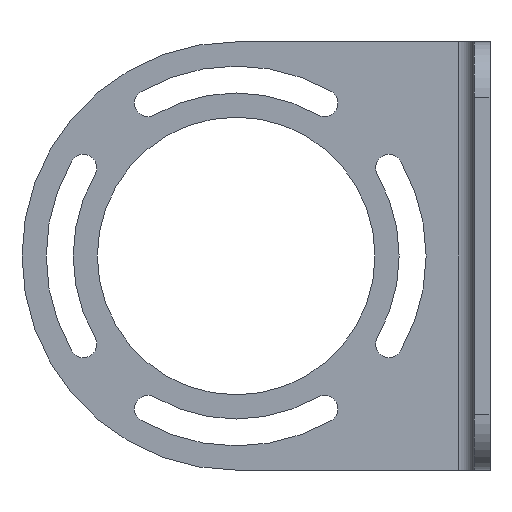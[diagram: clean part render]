
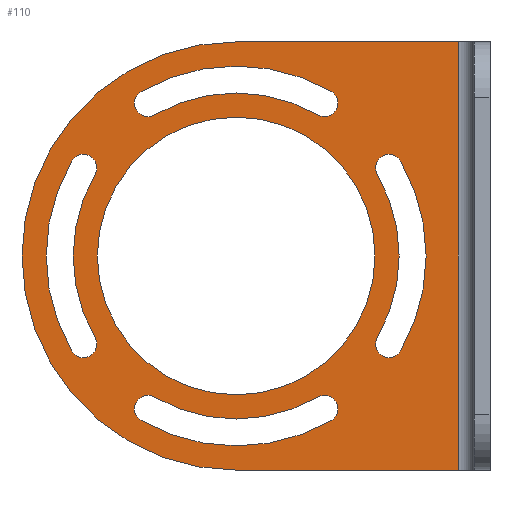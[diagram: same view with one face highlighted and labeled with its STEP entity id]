
A CAD part, left-side view. The second image highlights one B-rep face of the part: STEP entity #110.
In plain terms, the highlighted planar face has unit normal (-1, 0, 0).
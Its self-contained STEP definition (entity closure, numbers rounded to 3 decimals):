
#110=ADVANCED_FACE('',(#314,#315,#316,#317,#318,#319),#155,.T.);
#155=PLANE('',#995);
#180=LINE('',#1387,#248);
#187=LINE('',#1405,#255);
#189=LINE('',#1448,#257);
#248=VECTOR('',#1089,1.);
#255=VECTOR('',#1102,1.);
#257=VECTOR('',#1150,1.);
#314=FACE_BOUND('',#345,.T.);
#315=FACE_BOUND('',#346,.T.);
#316=FACE_BOUND('',#347,.T.);
#317=FACE_BOUND('',#348,.T.);
#318=FACE_BOUND('',#349,.T.);
#319=FACE_BOUND('',#350,.T.);
#345=EDGE_LOOP('',(#462,#463,#464,#465));
#346=EDGE_LOOP('',(#466,#467,#468,#469));
#347=EDGE_LOOP('',(#470,#471,#472,#473));
#348=EDGE_LOOP('',(#474));
#349=EDGE_LOOP('',(#475,#476,#477,#478));
#350=EDGE_LOOP('',(#479,#480,#481,#482));
#462=ORIENTED_EDGE('',*,*,#803,.F.);
#463=ORIENTED_EDGE('',*,*,#781,.T.);
#464=ORIENTED_EDGE('',*,*,#802,.T.);
#465=ORIENTED_EDGE('',*,*,#772,.T.);
#466=ORIENTED_EDGE('',*,*,#804,.T.);
#467=ORIENTED_EDGE('',*,*,#805,.F.);
#468=ORIENTED_EDGE('',*,*,#806,.T.);
#469=ORIENTED_EDGE('',*,*,#807,.T.);
#470=ORIENTED_EDGE('',*,*,#808,.F.);
#471=ORIENTED_EDGE('',*,*,#809,.T.);
#472=ORIENTED_EDGE('',*,*,#810,.F.);
#473=ORIENTED_EDGE('',*,*,#811,.F.);
#474=ORIENTED_EDGE('',*,*,#812,.F.);
#475=ORIENTED_EDGE('',*,*,#813,.F.);
#476=ORIENTED_EDGE('',*,*,#814,.T.);
#477=ORIENTED_EDGE('',*,*,#815,.F.);
#478=ORIENTED_EDGE('',*,*,#816,.F.);
#479=ORIENTED_EDGE('',*,*,#817,.F.);
#480=ORIENTED_EDGE('',*,*,#818,.T.);
#481=ORIENTED_EDGE('',*,*,#819,.F.);
#482=ORIENTED_EDGE('',*,*,#820,.F.);
#683=VERTEX_POINT('',#1386);
#684=VERTEX_POINT('',#1388);
#691=VERTEX_POINT('',#1404);
#692=VERTEX_POINT('',#1406);
#710=VERTEX_POINT('',#1450);
#711=VERTEX_POINT('',#1451);
#712=VERTEX_POINT('',#1453);
#713=VERTEX_POINT('',#1455);
#714=VERTEX_POINT('',#1458);
#715=VERTEX_POINT('',#1459);
#716=VERTEX_POINT('',#1461);
#717=VERTEX_POINT('',#1463);
#718=VERTEX_POINT('',#1466);
#719=VERTEX_POINT('',#1468);
#720=VERTEX_POINT('',#1469);
#721=VERTEX_POINT('',#1471);
#722=VERTEX_POINT('',#1473);
#723=VERTEX_POINT('',#1476);
#724=VERTEX_POINT('',#1477);
#725=VERTEX_POINT('',#1479);
#726=VERTEX_POINT('',#1481);
#772=EDGE_CURVE('',#684,#683,#180,.T.);
#781=EDGE_CURVE('',#692,#691,#187,.T.);
#802=EDGE_CURVE('',#691,#684,#909,.T.);
#803=EDGE_CURVE('',#692,#683,#189,.T.);
#804=EDGE_CURVE('',#710,#711,#910,.T.);
#805=EDGE_CURVE('',#712,#711,#911,.T.);
#806=EDGE_CURVE('',#712,#713,#912,.T.);
#807=EDGE_CURVE('',#713,#710,#913,.T.);
#808=EDGE_CURVE('',#714,#715,#914,.T.);
#809=EDGE_CURVE('',#714,#716,#915,.T.);
#810=EDGE_CURVE('',#717,#716,#916,.T.);
#811=EDGE_CURVE('',#715,#717,#917,.T.);
#812=EDGE_CURVE('',#718,#718,#918,.T.);
#813=EDGE_CURVE('',#719,#720,#919,.T.);
#814=EDGE_CURVE('',#719,#721,#920,.T.);
#815=EDGE_CURVE('',#722,#721,#921,.T.);
#816=EDGE_CURVE('',#720,#722,#922,.T.);
#817=EDGE_CURVE('',#723,#724,#923,.T.);
#818=EDGE_CURVE('',#723,#725,#924,.T.);
#819=EDGE_CURVE('',#726,#725,#925,.T.);
#820=EDGE_CURVE('',#724,#726,#926,.T.);
#909=CIRCLE('',#976,27.);
#910=CIRCLE('',#978,20.55);
#911=CIRCLE('',#979,1.7);
#912=CIRCLE('',#980,23.95);
#913=CIRCLE('',#981,1.7);
#914=CIRCLE('',#982,23.95);
#915=CIRCLE('',#983,1.7);
#916=CIRCLE('',#984,20.55);
#917=CIRCLE('',#985,1.7);
#918=CIRCLE('',#986,17.5);
#919=CIRCLE('',#987,23.95);
#920=CIRCLE('',#988,1.7);
#921=CIRCLE('',#989,20.55);
#922=CIRCLE('',#990,1.7);
#923=CIRCLE('',#991,23.95);
#924=CIRCLE('',#992,1.7);
#925=CIRCLE('',#993,20.55);
#926=CIRCLE('',#994,1.7);
#976=AXIS2_PLACEMENT_3D('',#1446,#1146,#1147);
#978=AXIS2_PLACEMENT_3D('',#1449,#1151,#1152);
#979=AXIS2_PLACEMENT_3D('',#1452,#1153,#1154);
#980=AXIS2_PLACEMENT_3D('',#1454,#1155,#1156);
#981=AXIS2_PLACEMENT_3D('',#1456,#1157,#1158);
#982=AXIS2_PLACEMENT_3D('',#1457,#1159,#1160);
#983=AXIS2_PLACEMENT_3D('',#1460,#1161,#1162);
#984=AXIS2_PLACEMENT_3D('',#1462,#1163,#1164);
#985=AXIS2_PLACEMENT_3D('',#1464,#1165,#1166);
#986=AXIS2_PLACEMENT_3D('',#1465,#1167,#1168);
#987=AXIS2_PLACEMENT_3D('',#1467,#1169,#1170);
#988=AXIS2_PLACEMENT_3D('',#1470,#1171,#1172);
#989=AXIS2_PLACEMENT_3D('',#1472,#1173,#1174);
#990=AXIS2_PLACEMENT_3D('',#1474,#1175,#1176);
#991=AXIS2_PLACEMENT_3D('',#1475,#1177,#1178);
#992=AXIS2_PLACEMENT_3D('',#1478,#1179,#1180);
#993=AXIS2_PLACEMENT_3D('',#1480,#1181,#1182);
#994=AXIS2_PLACEMENT_3D('',#1482,#1183,#1184);
#995=AXIS2_PLACEMENT_3D('',#1483,#1185,#1186);
#1089=DIRECTION('',(0.,-1.,0.));
#1102=DIRECTION('',(0.,1.,0.));
#1146=DIRECTION('',(-1.,0.,0.));
#1147=DIRECTION('',(0.,0.,1.));
#1150=DIRECTION('',(0.,0.,-1.));
#1151=DIRECTION('',(-1.,0.,0.));
#1152=DIRECTION('',(0.,0.,1.));
#1153=DIRECTION('',(-1.,0.,0.));
#1154=DIRECTION('',(0.,0.,-1.));
#1155=DIRECTION('',(1.,0.,0.));
#1156=DIRECTION('',(0.,0.,1.));
#1157=DIRECTION('',(1.,0.,0.));
#1158=DIRECTION('',(0.,0.,1.));
#1159=DIRECTION('',(-1.,0.,0.));
#1160=DIRECTION('',(0.,0.,1.));
#1161=DIRECTION('',(1.,0.,0.));
#1162=DIRECTION('',(0.,0.,-1.));
#1163=DIRECTION('',(1.,0.,0.));
#1164=DIRECTION('',(0.,0.,1.));
#1165=DIRECTION('',(-1.,0.,0.));
#1166=DIRECTION('',(0.,0.,1.));
#1167=DIRECTION('',(-1.,0.,0.));
#1168=DIRECTION('',(0.,0.,1.));
#1169=DIRECTION('',(-1.,0.,0.));
#1170=DIRECTION('',(0.,-1.,0.));
#1171=DIRECTION('',(1.,0.,0.));
#1172=DIRECTION('',(0.,1.,0.));
#1173=DIRECTION('',(1.,0.,0.));
#1174=DIRECTION('',(0.,-1.,0.));
#1175=DIRECTION('',(-1.,0.,0.));
#1176=DIRECTION('',(0.,-1.,0.));
#1177=DIRECTION('',(-1.,0.,0.));
#1178=DIRECTION('',(0.,1.,0.));
#1179=DIRECTION('',(1.,0.,0.));
#1180=DIRECTION('',(0.,-1.,0.));
#1181=DIRECTION('',(1.,0.,0.));
#1182=DIRECTION('',(0.,1.,0.));
#1183=DIRECTION('',(-1.,0.,0.));
#1184=DIRECTION('',(0.,1.,0.));
#1185=DIRECTION('',(-1.,0.,0.));
#1186=DIRECTION('',(0.,0.,1.));
#1386=CARTESIAN_POINT('',(39.587,-100.177,75.22));
#1387=CARTESIAN_POINT('',(39.587,-72.177,75.22));
#1388=CARTESIAN_POINT('',(39.587,-72.177,75.22));
#1404=CARTESIAN_POINT('',(39.587,-72.177,129.22));
#1405=CARTESIAN_POINT('',(39.587,-104.177,129.22));
#1406=CARTESIAN_POINT('',(39.587,-100.177,129.22));
#1446=CARTESIAN_POINT('',(39.587,-72.177,102.22));
#1448=CARTESIAN_POINT('',(39.587,-100.177,129.22));
#1449=CARTESIAN_POINT('',(39.587,-72.177,102.22));
#1450=CARTESIAN_POINT('',(39.587,-89.974,91.945));
#1451=CARTESIAN_POINT('',(39.587,-89.974,112.495));
#1452=CARTESIAN_POINT('',(39.587,-91.447,113.345));
#1453=CARTESIAN_POINT('',(39.587,-92.919,114.195));
#1454=CARTESIAN_POINT('',(39.587,-72.177,102.22));
#1455=CARTESIAN_POINT('',(39.587,-92.919,90.245));
#1456=CARTESIAN_POINT('',(39.587,-91.447,91.095));
#1457=CARTESIAN_POINT('',(39.587,-72.177,102.22));
#1458=CARTESIAN_POINT('',(39.587,-51.436,114.195));
#1459=CARTESIAN_POINT('',(39.587,-51.436,90.245));
#1460=CARTESIAN_POINT('',(39.587,-52.908,113.345));
#1461=CARTESIAN_POINT('',(39.587,-54.381,112.495));
#1462=CARTESIAN_POINT('',(39.587,-72.177,102.22));
#1463=CARTESIAN_POINT('',(39.587,-54.381,91.945));
#1464=CARTESIAN_POINT('',(39.587,-52.908,91.095));
#1465=CARTESIAN_POINT('',(39.587,-72.177,102.22));
#1466=CARTESIAN_POINT('',(39.587,-72.177,119.72));
#1467=CARTESIAN_POINT('',(39.587,-72.177,102.22));
#1468=CARTESIAN_POINT('',(39.587,-84.152,122.961));
#1469=CARTESIAN_POINT('',(39.587,-60.202,122.961));
#1470=CARTESIAN_POINT('',(39.587,-83.302,121.489));
#1471=CARTESIAN_POINT('',(39.587,-82.452,120.017));
#1472=CARTESIAN_POINT('',(39.587,-72.177,102.22));
#1473=CARTESIAN_POINT('',(39.587,-61.902,120.017));
#1474=CARTESIAN_POINT('',(39.587,-61.052,121.489));
#1475=CARTESIAN_POINT('',(39.587,-72.177,102.22));
#1476=CARTESIAN_POINT('',(39.587,-60.202,81.479));
#1477=CARTESIAN_POINT('',(39.587,-84.152,81.479));
#1478=CARTESIAN_POINT('',(39.587,-61.052,82.951));
#1479=CARTESIAN_POINT('',(39.587,-61.902,84.423));
#1480=CARTESIAN_POINT('',(39.587,-72.177,102.22));
#1481=CARTESIAN_POINT('',(39.587,-82.452,84.423));
#1482=CARTESIAN_POINT('',(39.587,-83.302,82.951));
#1483=CARTESIAN_POINT('',(39.587,-72.177,102.22));
